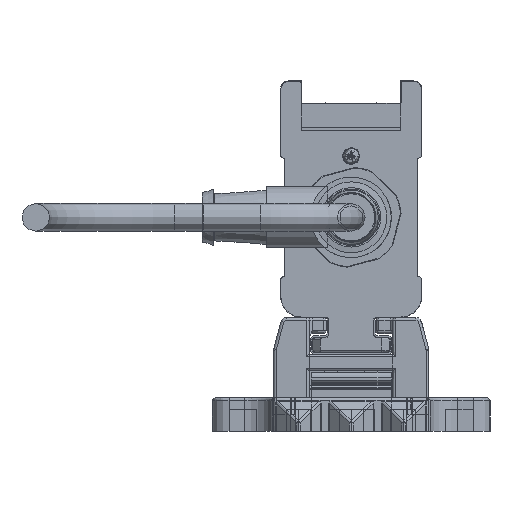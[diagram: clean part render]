
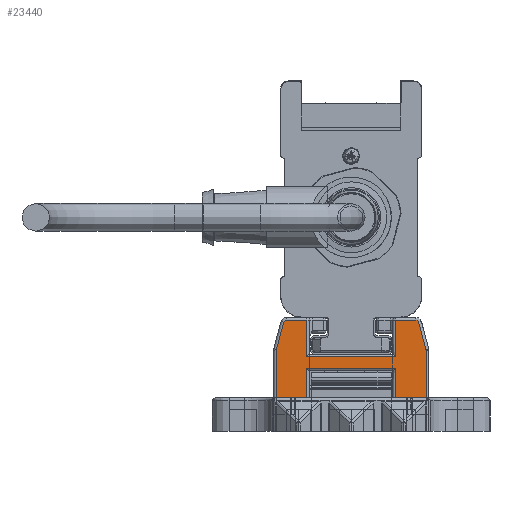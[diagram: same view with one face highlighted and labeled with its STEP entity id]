
A CAD part, left-side view. The second image highlights one B-rep face of the part: STEP entity #23440.
In plain terms, the highlighted planar face has unit normal (-1, 0, 0).
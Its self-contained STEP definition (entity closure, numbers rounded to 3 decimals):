
#23440=ADVANCED_FACE('', (#23450), #23460, .T.);
#165170=AXIS2_PLACEMENT_3D('Ax2Pl3d', #165180, #165190, #165200);
#165410=AXIS2_PLACEMENT_3D('Ax2Pl3d', #165420, #165430, #165440);
#170290=AXIS2_PLACEMENT_3D('Ax2Pl3d', #170300, #170310, #170320);
#175370=AXIS2_PLACEMENT_3D('Ax2Pl3d', #175380, #175390, #175400);
#185050=AXIS2_PLACEMENT_3D('Ax2Pl3d', #185060, #185070, #185080);
#714080=CARTESIAN_POINT('', (-747.669,-4326.345,
331.37));
#165180=CARTESIAN_POINT('HicPkt', (-747.669,-4325.379,
331.111));
#714090=CARTESIAN_POINT('', (-747.669,-4326.379,331.111)
);
#714100=CARTESIAN_POINT('', (-747.669,-4325.037,
336.255));
#714120=CARTESIAN_POINT('', (-747.669,-4325.037,
336.255));
#714150=CARTESIAN_POINT('', (-747.669,-4324.554,
336.625));
#165420=CARTESIAN_POINT('HicPkt', (-747.669,-4324.554,
336.125));
#714370=CARTESIAN_POINT('', (-747.669,-4326.379,322.625)
);
#714380=CARTESIAN_POINT('', (-747.669,-4320.881,322.625)
);
#714390=CARTESIAN_POINT('', (-747.669,-4320.881,322.625)
);
#714470=CARTESIAN_POINT('', (-747.669,-4304.881,322.625)
);
#714480=CARTESIAN_POINT('', (-747.669,-4299.383,322.625)
);
#714490=CARTESIAN_POINT('', (-747.669,-4299.383,322.625)
);
#170300=CARTESIAN_POINT('HicPkt', (-747.669,-4301.209,
336.125));
#716960=CARTESIAN_POINT('', (-747.669,-4300.726,
336.255));
#716970=CARTESIAN_POINT('', (-747.669,-4301.209,
336.625));
#716980=CARTESIAN_POINT('', (-747.669,-4320.881,
330.025));
#716990=CARTESIAN_POINT('', (-747.669,-4304.881,
330.025));
#717000=CARTESIAN_POINT('', (-747.669,-4320.881,
330.025));
#717160=CARTESIAN_POINT('', (-747.669,-4320.881,
328.005));
#717170=CARTESIAN_POINT('', (-747.669,-4304.881,
328.005));
#717180=CARTESIAN_POINT('', (-747.669,-4304.881,
328.005));
#717190=CARTESIAN_POINT('', (-747.669,-4320.881,
328.005));
#717210=CARTESIAN_POINT('', (-747.669,-4304.881,322.625)
);
#717220=CARTESIAN_POINT('', (-747.669,-4304.881,
330.025));
#717230=CARTESIAN_POINT('', (-747.669,-4304.881,
336.625));
#718080=CARTESIAN_POINT('', (-747.669,-4304.881,
336.625));
#718090=CARTESIAN_POINT('', (-747.669,-4300.726,
336.255));
#718100=CARTESIAN_POINT('', (-747.669,-4299.417,
331.37));
#718290=CARTESIAN_POINT('', (-747.669,-4299.383,331.111)
);
#718300=CARTESIAN_POINT('', (-747.669,-4299.383,331.111)
);
#175380=CARTESIAN_POINT('HicPkt', (-747.669,-4300.383,
331.111));
#719110=CARTESIAN_POINT('', (-747.669,-4326.379,331.111)
);
#185060=CARTESIAN_POINT('HicPkt', (-747.669,-4324.554,
336.625));
#720910=CARTESIAN_POINT('', (-747.669,-4320.881,
336.625));
#720920=CARTESIAN_POINT('', (-747.669,-4320.881,
336.625));
#720930=CARTESIAN_POINT('', (-747.669,-4320.881,
336.625));
#828200=CIRCLE('Circle', #165170, 1.);
#828240=CIRCLE('Circle', #165410, 0.5);
#828820=CIRCLE('Circle', #170290, 0.5);
#829350=CIRCLE('Circle', #175370, 1.);
#165190=DIRECTION('Axis', (-1.,0.,
0.));
#165200=DIRECTION('RefDirection', (0.,
0.,-1.));
#1155220=DIRECTION('', (0.,0.259,
0.966));
#165430=DIRECTION('Axis', (-1.,0.,
0.));
#165440=DIRECTION('RefDirection', (0.,
0.,-1.));
#1155330=DIRECTION('', (0.,1.,0.));
#1155370=DIRECTION('', (0.,1.,0.));
#170310=DIRECTION('Axis', (1.,0.,
0.));
#170320=DIRECTION('RefDirection', (0.,
0.,-1.));
#1156560=DIRECTION('', (0.,-1.,0.));
#1156660=DIRECTION('', (0.,1.,0.));
#1156670=DIRECTION('', (0.,0.,1.));
#1156690=DIRECTION('', (0.,0.,-1.));
#1156700=DIRECTION('', (0.,0.,-1.));
#1157130=DIRECTION('', (0.,-1.,0.))
;
#1157140=DIRECTION('', (0.,-0.259,0.966));
#1157230=DIRECTION('', (0.,0.,1.));
#175390=DIRECTION('Axis', (1.,0.,
0.));
#175400=DIRECTION('RefDirection', (0.,
0.,-1.));
#1157600=DIRECTION('', (0.,0.,1.));
#185070=DIRECTION('Axis', (-1.,0.,
0.));
#185080=DIRECTION('RefDirection', (0.,
0.,-1.));
#1158440=DIRECTION('', (0.,1.,0.));
#1158450=DIRECTION('', (0.,0.,1.));
#1233130=EDGE_CURVE('', #1233140, #1233120, #828200, .T.);
#1233190=EDGE_CURVE('', #1233120, #1233170, #1233200, .T.);
#1233260=EDGE_CURVE('', #1233170, #1233250, #828240, .T.);
#1233710=EDGE_CURVE('', #1233700, #1233720, #1233730, .T.);
#1233870=EDGE_CURVE('', #1233860, #1233880, #1233890, .T.);
#1238230=EDGE_CURVE('', #1238240, #1238250, #828820, .T.);
#1238280=EDGE_CURVE('', #1238290, #1238300, #1238310, .T.);
#1238650=EDGE_CURVE('', #1238630, #1238660, #1238670, .T.);
#1238700=EDGE_CURVE('', #1233720, #1238630, #1238710, .T.);
#1238740=EDGE_CURVE('', #1238660, #1233860, #1238750, .T.);
#1238760=EDGE_CURVE('', #1238770, #1238290, #1238780, .T.);
#1240600=EDGE_CURVE('', #1238250, #1238770, #1240610, .T.);
#1240670=EDGE_CURVE('', #1240680, #1238240, #1240690, .T.);
#1241110=EDGE_CURVE('', #1233880, #1241120, #1241130, .T.);
#1241150=EDGE_CURVE('', #1241120, #1240680, #829350, .T.);
#1242860=EDGE_CURVE('', #1233700, #1233140, #1242870, .T.);
#1246670=EDGE_CURVE('', #1233250, #1246680, #1246690, .T.);
#1246700=EDGE_CURVE('', #1238300, #1246680, #1246710, .T.);
#1483650=EDGE_LOOP('Edge_loop', (#1483660,#1483670,#1483680,#1483690,
#1483700,#1483710,#1483720,#1483730,#1483740,#1483750,#1483760,
#1483770,#1483780,#1483790,#1483800,#1483810,#1483820,#1483830));
#23450=FACE_OUTER_BOUND('Face_outer_bound', #1483650, .T.);
#1233200=LINE('Line', #714120, #1704690);
#1233730=LINE('Line', #714380, #1704800);
#1233890=LINE('Line', #714480, #1704840);
#1238310=LINE('Line', #716980, #1706030);
#1238670=LINE('Line', #717170, #1706130);
#1238710=LINE('Line', #717190, #1706140);
#1238750=LINE('Line', #717210, #1706160);
#1238780=LINE('Line', #717220, #1706170);
#1240610=LINE('Line', #718080, #1706600);
#1240690=LINE('Line', #718090, #1706610);
#1241130=LINE('Line', #718290, #1706700);
#1242870=LINE('Line', #719110, #1707070);
#1246690=LINE('Line', #720910, #1707910);
#1246710=LINE('Line', #720930, #1707920);
#1483660=ORIENTED_EDGE('', *, *, #1246670, .T.);
#1483670=ORIENTED_EDGE('', *, *, #1246700, .F.);
#1483680=ORIENTED_EDGE('', *, *, #1238280, .F.);
#1483690=ORIENTED_EDGE('', *, *, #1238760, .F.);
#1483700=ORIENTED_EDGE('', *, *, #1240600, .F.);
#1483710=ORIENTED_EDGE('', *, *, #1238230, .F.);
#1483720=ORIENTED_EDGE('', *, *, #1240670, .F.);
#1483730=ORIENTED_EDGE('', *, *, #1241150, .F.);
#1483740=ORIENTED_EDGE('', *, *, #1241110, .F.);
#1483750=ORIENTED_EDGE('', *, *, #1233870, .F.);
#1483760=ORIENTED_EDGE('', *, *, #1238740, .F.);
#1483770=ORIENTED_EDGE('', *, *, #1238650, .F.);
#1483780=ORIENTED_EDGE('', *, *, #1238700, .F.);
#1483790=ORIENTED_EDGE('', *, *, #1233710, .F.);
#1483800=ORIENTED_EDGE('', *, *, #1242860, .T.);
#1483810=ORIENTED_EDGE('', *, *, #1233130, .T.);
#1483820=ORIENTED_EDGE('', *, *, #1233190, .T.);
#1483830=ORIENTED_EDGE('', *, *, #1233260, .T.);
#23460=PLANE('Plane', #185050);
#1704690=VECTOR('', #1155220, 5.057);
#1704800=VECTOR('', #1155330, 5.498);
#1704840=VECTOR('', #1155370, 5.498);
#1706030=VECTOR('', #1156560, 16.);
#1706130=VECTOR('', #1156660, 16.);
#1706140=VECTOR('', #1156670, 5.38);
#1706160=VECTOR('', #1156690, 5.38);
#1706170=VECTOR('', #1156700, 6.6);
#1706600=VECTOR('', #1157130, 3.672);
#1706610=VECTOR('', #1157140, 5.057);
#1706700=VECTOR('', #1157230, 8.486);
#1707070=VECTOR('', #1157600, 8.486);
#1707910=VECTOR('', #1158440, 3.672);
#1707920=VECTOR('', #1158450, 6.6);
#1233120=VERTEX_POINT('', #714080);
#1233140=VERTEX_POINT('', #714090);
#1233170=VERTEX_POINT('', #714100);
#1233250=VERTEX_POINT('', #714150);
#1233700=VERTEX_POINT('', #714370);
#1233720=VERTEX_POINT('', #714390);
#1233860=VERTEX_POINT('', #714470);
#1233880=VERTEX_POINT('', #714490);
#1238240=VERTEX_POINT('', #716960);
#1238250=VERTEX_POINT('', #716970);
#1238290=VERTEX_POINT('', #716990);
#1238300=VERTEX_POINT('', #717000);
#1238630=VERTEX_POINT('', #717160);
#1238660=VERTEX_POINT('', #717180);
#1238770=VERTEX_POINT('', #717230);
#1240680=VERTEX_POINT('', #718100);
#1241120=VERTEX_POINT('', #718300);
#1246680=VERTEX_POINT('', #720920);
